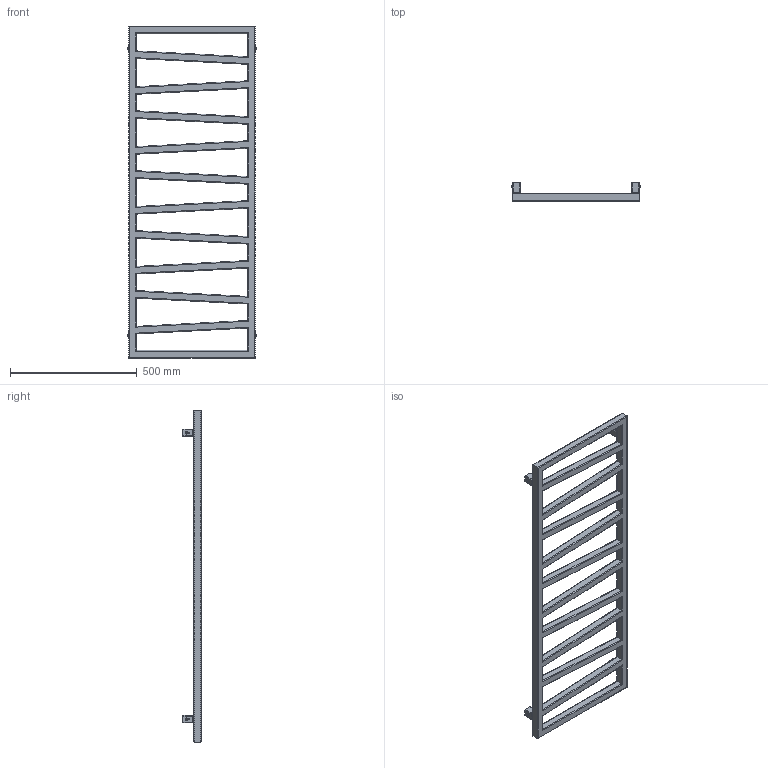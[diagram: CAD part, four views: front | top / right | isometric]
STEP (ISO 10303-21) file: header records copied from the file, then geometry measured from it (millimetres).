
FILE_DESCRIPTION((''),'2;1');
FILE_NAME('Z:\R\G\P\RGP106 - Grzejnik Zigzag\Work\Inventor\Marketing\Katalog 2012\Modele AutoCAD\ZIG-1310-500-SX.stp','2012-07-12T15:35:05',('KurKa'),(''),'Autodesk Inventor 2012','Autodesk Inventor 2012','');
FILE_SCHEMA(('AUTOMOTIVE_DESIGN { 1 0 10303 214 1 1 1 1 }'));
Length unit declared in the file: millimetre
Products named in the file (3): ZIG-1310-500-SX; MMT42_marketing
Assembly tree (5 placements, depth 2):
  ZIG-1310-500-SX
    ZIG-1310-500-SX
    MMT42_marketing  x4
Bounding box: 506 x 72 x 1310 mm (x, y, z)
Volume: 7184002.2 mm3; surface area: 922103.3 mm2
Topology: 5 solids, 5 shells, 335 faces, 787 edges, 477 vertices
Faces by surface type: plane 153, cylinder 147, cone 24, torus 11
Full cylindrical faces by diameter (mm): 4.509 x4, 11.445 x1, 12 x4, 18.631 x2
Entity records: 5649 total; most frequent: DIRECTION 1002, CARTESIAN_POINT 960, ORIENTED_EDGE 896, EDGE_CURVE 448, AXIS2_PLACEMENT_3D 350, VECTOR 302, LINE 302, VERTEX_POINT 268
